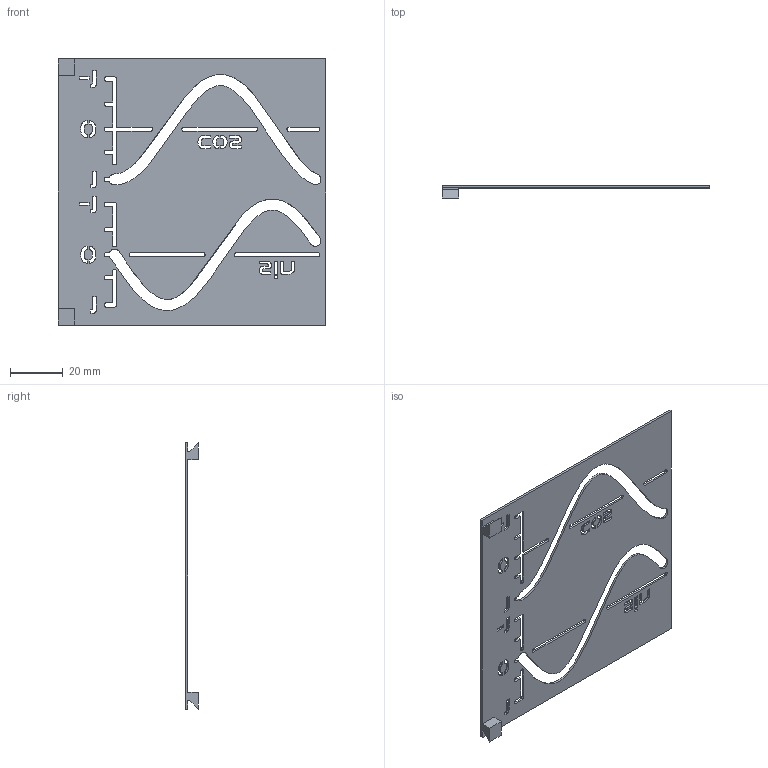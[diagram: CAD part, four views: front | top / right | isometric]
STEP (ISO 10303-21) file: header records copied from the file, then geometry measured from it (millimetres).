
FILE_DESCRIPTION (( 'STEP AP214' ), '1' );
FILE_NAME ('2 - Top Face Mid.STEP', '2022-11-25T05:42:49', ( '' ), ( '' ), 'SwSTEP 2.0', 'SolidWorks 2021', '' );
FILE_SCHEMA (( 'AUTOMOTIVE_DESIGN' ));
Length unit declared in the file: inch
Products named in the file (1): 2 - Top Face Mid
Bounding box: 101.6 x 4.76 x 101.09 mm (x, y, z)
Volume: 7272.5 mm3; surface area: 19181.4 mm2
Topology: 1 solids, 1 shells, 242 faces, 720 edges, 480 vertices
Faces by surface type: plane 148, bspline 60, cylinder 34
Entity records: 12792 total; most frequent: CARTESIAN_POINT 6495, ORIENTED_EDGE 1440, DIRECTION 1034, EDGE_CURVE 720, VECTOR 532, LINE 532, VERTEX_POINT 480, EDGE_LOOP 296
